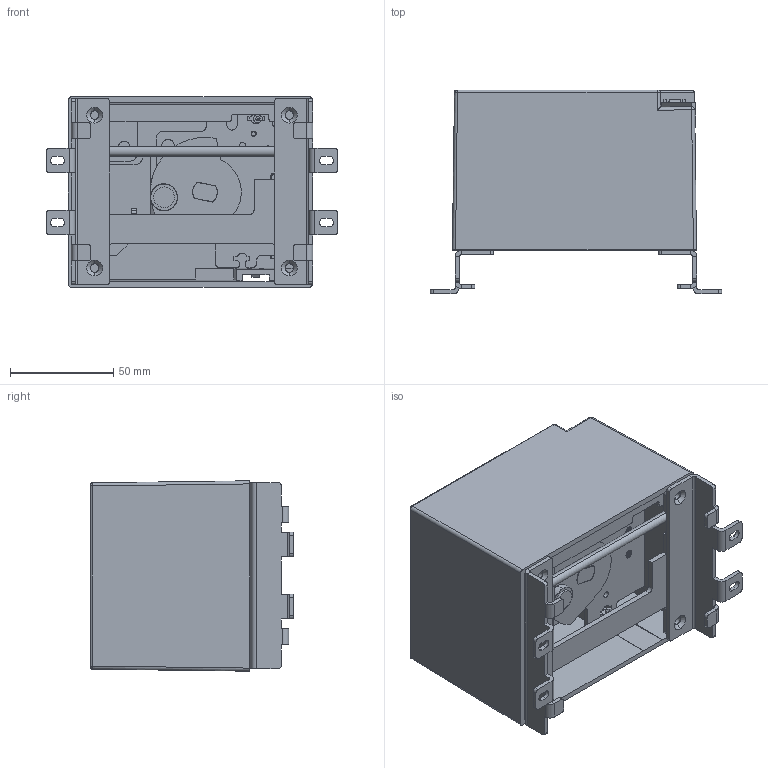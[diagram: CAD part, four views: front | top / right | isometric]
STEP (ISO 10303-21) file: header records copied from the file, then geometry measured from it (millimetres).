
FILE_DESCRIPTION (( 'STEP AP214' ), '1' );
FILE_NAME ('毞淏TGM1NE-160 萇紱俋倛.STEP', '2025-12-09T02:59:31', ( '' ), ( '' ), 'SwSTEP 2.0', 'SolidWorks 2016', '' );
FILE_SCHEMA (( 'AUTOMOTIVE_DESIGN' ));
Length unit declared in the file: millimetre
Products named in the file (16): NS軞殤嶺沭; NS-250前支持件居中款231216; CD2-100芵隴誘欶; CD2-100褲极; CD2-100軞粣杶; CD2-100軞粣; NSX-250軞儂殤懈笢遴231216; CD2-100笢盓殤; CD2-100芧謫幗粣; CD2-100芧謫幗謫; NS-250芧謫4瘍懈笢遴231216; CD2-100賑輸絳弇粣; 毞淏TGM1NE-160 萇紱俋倛; TGM1NE-160 萇紱褐殤; CD2-250 萇紱俋倛; 迕諶偌聽
Assembly tree (16 placements, depth 3):
  毞淏TGM1NE-160 萇紱俋倛
    CD2-250 萇紱俋倛
      CD2-100賑輸絳弇粣
      NS-250芧謫4瘍懈笢遴231216
      CD2-100芧謫幗謫
      CD2-100芧謫幗粣
      CD2-100笢盓殤
      NSX-250軞儂殤懈笢遴231216
      CD2-100軞粣
      CD2-100軞粣杶
      CD2-100褲极
      CD2-100芵隴誘欶
      NS-250前支持件居中款231216
      NS軞殤嶺沭
      迕諶偌聽
    TGM1NE-160 萇紱褐殤  x2
Bounding box: 140.94 x 98.45 x 92.1 mm (x, y, z)
Volume: 183802.7 mm3; surface area: 161358 mm2
Topology: 16 solids, 16 shells, 1900 faces, 5327 edges, 3512 vertices
Faces by surface type: plane 1135, cylinder 384, bspline 359, cone 22
Entity records: 107975 total; most frequent: CARTESIAN_POINT 44372, ORIENTED_EDGE 10230, DIRECTION 7212, EDGE_CURVE 5115, VERTEX_POINT 3380, LINE 3344, VECTOR 3344, EDGE_LOOP 1997
